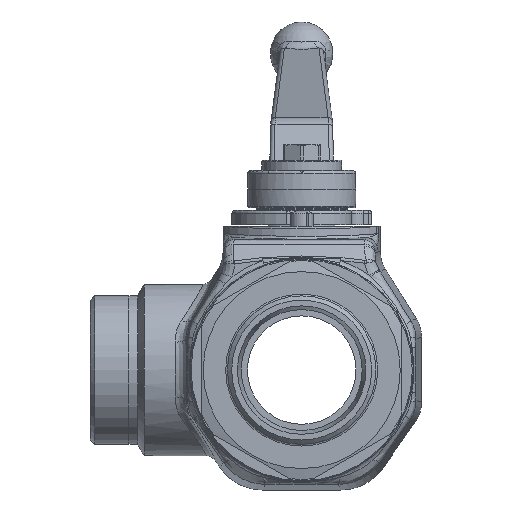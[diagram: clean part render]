
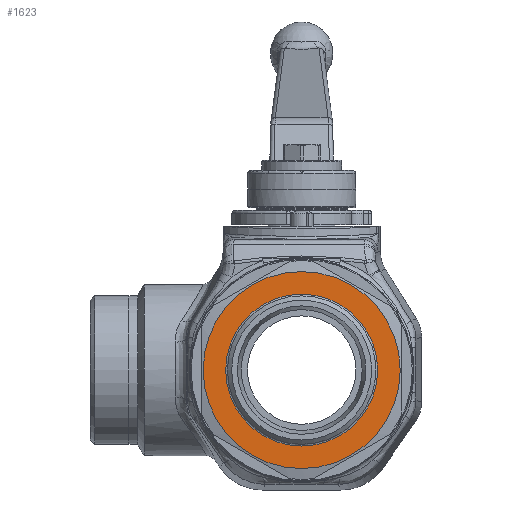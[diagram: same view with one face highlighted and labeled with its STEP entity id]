
A CAD part, front view. The second image highlights one B-rep face of the part: STEP entity #1623.
In plain terms, the highlighted planar face has unit normal (0, -1, 0) as drawn and (0, 1, 0) by its records, which use the part's own axes.
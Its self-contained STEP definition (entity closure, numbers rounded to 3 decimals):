
#1623 = ADVANCED_FACE( '', ( #3229, #3230 ), #3231, .F. );
#3229 = FACE_BOUND( '', #8962, .T. );
#3230 = FACE_OUTER_BOUND( '', #8963, .T. );
#3231 = PLANE( '', #8964 );
#8962 = EDGE_LOOP( '', ( #12838 ) );
#8963 = EDGE_LOOP( '', ( #12839 ) );
#8964 = AXIS2_PLACEMENT_3D( '', #12840, #12841, #12842 );
#12838 = ORIENTED_EDGE( '', *, *, #14604, .T. );
#12839 = ORIENTED_EDGE( '', *, *, #13606, .F. );
#12840 = CARTESIAN_POINT( '', ( 0., 6.5, 26. ) );
#12841 = DIRECTION( '', ( 0., -1., 0. ) );
#12842 = DIRECTION( '', ( 0., 0., -1. ) );
#13606 = EDGE_CURVE( '', #15587, #15587, #15588, .T. );
#14604 = EDGE_CURVE( '', #16904, #16904, #16905, .T. );
#15587 = VERTEX_POINT( '', #20060 );
#15588 = CIRCLE( '', #20061, 34.5 );
#16904 = VERTEX_POINT( '', #24866 );
#16905 = CIRCLE( '', #24867, 26.6 );
#20060 = CARTESIAN_POINT( '', ( 0., 6.5, -34.5 ) );
#20061 = AXIS2_PLACEMENT_3D( '', #25662, #25663, #25664 );
#24866 = CARTESIAN_POINT( '', ( 0., 6.5, -26.6 ) );
#24867 = AXIS2_PLACEMENT_3D( '', #26727, #26728, #26729 );
#25662 = CARTESIAN_POINT( '', ( 0., 6.5, 0. ) );
#25663 = DIRECTION( '', ( 0., -1., 0. ) );
#25664 = DIRECTION( '', ( 0., 0., -1. ) );
#26727 = CARTESIAN_POINT( '', ( 0., 6.5, 0. ) );
#26728 = DIRECTION( '', ( 0., -1., 0. ) );
#26729 = DIRECTION( '', ( 0., 0., -1. ) );
